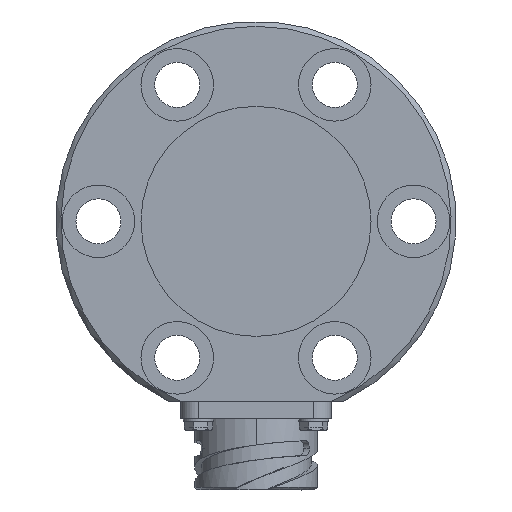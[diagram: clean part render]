
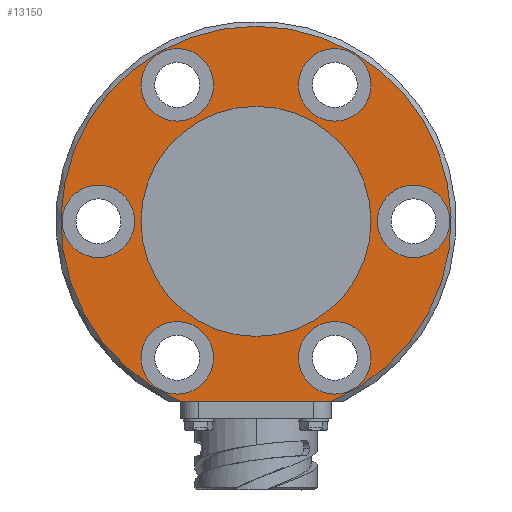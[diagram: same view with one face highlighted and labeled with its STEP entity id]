
A CAD part, left-side view. The second image highlights one B-rep face of the part: STEP entity #13150.
In plain terms, the highlighted planar face has unit normal (-1, 0, 0).
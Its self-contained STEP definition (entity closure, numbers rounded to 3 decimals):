
#8041=CARTESIAN_POINT('',(0.,-31.5,0.));
#8042=DIRECTION('',(1.,0.,0.));
#8043=DIRECTION('',(0.,0.5,0.866));
#8044=AXIS2_PLACEMENT_3D('',#8041,#8042,#8043);
#8049=CARTESIAN_POINT('',(0.,-31.5,0.));
#8050=DIRECTION('',(1.,0.,0.));
#8051=DIRECTION('',(0.,-0.5,-0.866));
#8052=AXIS2_PLACEMENT_3D('',#8049,#8050,#8051);
#8057=CARTESIAN_POINT('',(0.,-15.75,-27.28));
#8058=DIRECTION('',(1.,0.,0.));
#8059=DIRECTION('',(0.,-0.5,0.866));
#8060=AXIS2_PLACEMENT_3D('',#8057,#8058,#8059);
#8065=CARTESIAN_POINT('',(0.,-15.75,-27.28));
#8066=DIRECTION('',(1.,0.,0.));
#8067=DIRECTION('',(0.,0.5,-0.866));
#8068=AXIS2_PLACEMENT_3D('',#8065,#8066,#8067);
#8073=CARTESIAN_POINT('',(0.,15.75,-27.28));
#8074=DIRECTION('',(1.,0.,0.));
#8075=DIRECTION('',(0.,-1.,0.));
#8076=AXIS2_PLACEMENT_3D('',#8073,#8074,#8075);
#8081=CARTESIAN_POINT('',(0.,15.75,-27.28));
#8082=DIRECTION('',(1.,0.,0.));
#8083=DIRECTION('',(0.,1.,0.));
#8084=AXIS2_PLACEMENT_3D('',#8081,#8082,#8083);
#8089=CARTESIAN_POINT('',(0.,31.5,0.));
#8090=DIRECTION('',(1.,0.,0.));
#8091=DIRECTION('',(0.,-0.5,-0.866));
#8092=AXIS2_PLACEMENT_3D('',#8089,#8090,#8091);
#8097=CARTESIAN_POINT('',(0.,31.5,0.));
#8098=DIRECTION('',(1.,0.,0.));
#8099=DIRECTION('',(0.,0.5,0.866));
#8100=AXIS2_PLACEMENT_3D('',#8097,#8098,#8099);
#8105=CARTESIAN_POINT('',(0.,15.75,27.28));
#8106=DIRECTION('',(1.,0.,0.));
#8107=DIRECTION('',(0.,0.5,-0.866));
#8108=AXIS2_PLACEMENT_3D('',#8105,#8106,#8107);
#8113=CARTESIAN_POINT('',(0.,15.75,27.28));
#8114=DIRECTION('',(1.,0.,0.));
#8115=DIRECTION('',(0.,-0.5,0.866));
#8116=AXIS2_PLACEMENT_3D('',#8113,#8114,#8115);
#8121=CARTESIAN_POINT('',(0.,-15.75,27.28));
#8122=DIRECTION('',(1.,0.,0.));
#8123=DIRECTION('',(0.,1.,0.));
#8124=AXIS2_PLACEMENT_3D('',#8121,#8122,#8123);
#8129=CARTESIAN_POINT('',(0.,-15.75,27.28));
#8130=DIRECTION('',(1.,0.,0.));
#8131=DIRECTION('',(0.,-1.,0.));
#8132=AXIS2_PLACEMENT_3D('',#8129,#8130,#8131);
#8137=CARTESIAN_POINT('',(0.,0.,0.));
#8138=DIRECTION('',(1.,0.,0.));
#8139=DIRECTION('',(0.,-1.,0.));
#8140=AXIS2_PLACEMENT_3D('',#8137,#8138,#8139);
#8145=CARTESIAN_POINT('',(0.,0.,0.));
#8146=DIRECTION('',(1.,0.,0.));
#8147=DIRECTION('',(0.,1.,0.));
#8148=AXIS2_PLACEMENT_3D('',#8145,#8146,#8147);
#8153=DIRECTION('',(0.,-1.,0.));
#8154=VECTOR('',#8153,30.);
#8155=CARTESIAN_POINT('',(0.,15.,
-36.));
#8156=LINE('',#8155,#8154);
#8160=CARTESIAN_POINT('',(0.,0.,0.));
#8161=DIRECTION('',(1.,0.,0.));
#8162=DIRECTION('',(0.,0.385,-0.923));
#8163=AXIS2_PLACEMENT_3D('',#8160,#8161,#8162);
#9527=CARTESIAN_POINT('',(0.,15.,
-36.));
#9528=CARTESIAN_POINT('',(0.,-15.,
-36.));
#9529=VERTEX_POINT('',#9527);
#9530=VERTEX_POINT('',#9528);
#9635=CARTESIAN_POINT('',(0.,-23.,27.28));
#9636=CARTESIAN_POINT('',(0.,-8.5,27.28));
#9637=VERTEX_POINT('',#9635);
#9638=VERTEX_POINT('',#9636);
#9639=CARTESIAN_POINT('',(0.,23.,0.));
#9640=CARTESIAN_POINT('',(0.,-23.,0.));
#9641=VERTEX_POINT('',#9639);
#9642=VERTEX_POINT('',#9640);
#9643=CARTESIAN_POINT('',(0.,12.125,33.558));
#9644=CARTESIAN_POINT('',(0.,19.375,21.001));
#9645=VERTEX_POINT('',#9643);
#9646=VERTEX_POINT('',#9644);
#9647=CARTESIAN_POINT('',(0.,35.125,6.279));
#9648=CARTESIAN_POINT('',(0.,27.875,-6.279));
#9649=VERTEX_POINT('',#9647);
#9650=VERTEX_POINT('',#9648);
#9651=CARTESIAN_POINT('',(0.,23.,-27.28));
#9652=CARTESIAN_POINT('',(0.,8.5,-27.28));
#9653=VERTEX_POINT('',#9651);
#9654=VERTEX_POINT('',#9652);
#9655=CARTESIAN_POINT('',(0.,-12.125,-33.558));
#9656=CARTESIAN_POINT('',(0.,-19.375,-21.001));
#9657=VERTEX_POINT('',#9655);
#9658=VERTEX_POINT('',#9656);
#9659=CARTESIAN_POINT('',(0.,-35.125,-6.279));
#9660=CARTESIAN_POINT('',(0.,-27.875,6.279));
#9661=VERTEX_POINT('',#9659);
#9662=VERTEX_POINT('',#9660);
#13098=CARTESIAN_POINT('',(0.,0.,0.));
#13099=DIRECTION('',(-1.,0.,0.));
#13100=DIRECTION('',(0.,0.,-1.));
#13101=AXIS2_PLACEMENT_3D('',#13098,#13099,#13100);
#13102=PLANE('',#13101);
#13103=ORIENTED_EDGE('',*,*,#12972,.F.);
#13105=ORIENTED_EDGE('',*,*,#13104,.T.);
#13106=EDGE_LOOP('',(#13103,#13105));
#13107=FACE_OUTER_BOUND('',#13106,.F.);
#13109=ORIENTED_EDGE('',*,*,#13108,.F.);
#13111=ORIENTED_EDGE('',*,*,#13110,.F.);
#13112=EDGE_LOOP('',(#13109,#13111));
#13113=FACE_BOUND('',#13112,.F.);
#13115=ORIENTED_EDGE('',*,*,#13114,.F.);
#13117=ORIENTED_EDGE('',*,*,#13116,.F.);
#13118=EDGE_LOOP('',(#13115,#13117));
#13119=FACE_BOUND('',#13118,.F.);
#13121=ORIENTED_EDGE('',*,*,#13120,.F.);
#13123=ORIENTED_EDGE('',*,*,#13122,.F.);
#13124=EDGE_LOOP('',(#13121,#13123));
#13125=FACE_BOUND('',#13124,.F.);
#13127=ORIENTED_EDGE('',*,*,#13126,.F.);
#13129=ORIENTED_EDGE('',*,*,#13128,.F.);
#13130=EDGE_LOOP('',(#13127,#13129));
#13131=FACE_BOUND('',#13130,.F.);
#13133=ORIENTED_EDGE('',*,*,#13132,.F.);
#13135=ORIENTED_EDGE('',*,*,#13134,.F.);
#13136=EDGE_LOOP('',(#13133,#13135));
#13137=FACE_BOUND('',#13136,.F.);
#13139=ORIENTED_EDGE('',*,*,#13138,.F.);
#13141=ORIENTED_EDGE('',*,*,#13140,.F.);
#13142=EDGE_LOOP('',(#13139,#13141));
#13143=FACE_BOUND('',#13142,.F.);
#13145=ORIENTED_EDGE('',*,*,#13144,.F.);
#13147=ORIENTED_EDGE('',*,*,#13146,.F.);
#13148=EDGE_LOOP('',(#13145,#13147));
#13149=FACE_BOUND('',#13148,.F.);
#8045=CIRCLE('',#8044,7.25);
#8053=CIRCLE('',#8052,7.25);
#8061=CIRCLE('',#8060,7.25);
#8069=CIRCLE('',#8068,7.25);
#8077=CIRCLE('',#8076,7.25);
#8085=CIRCLE('',#8084,7.25);
#8093=CIRCLE('',#8092,7.25);
#8101=CIRCLE('',#8100,7.25);
#8109=CIRCLE('',#8108,7.25);
#8117=CIRCLE('',#8116,7.25);
#8125=CIRCLE('',#8124,7.25);
#8133=CIRCLE('',#8132,7.25);
#8141=CIRCLE('',#8140,23.);
#8149=CIRCLE('',#8148,23.);
#8164=CIRCLE('',#8163,39.);
#12972=EDGE_CURVE('',#9529,#9530,#8156,.T.);
#13104=EDGE_CURVE('',#9529,#9530,#8164,.T.);
#13108=EDGE_CURVE('',#9658,#9657,#8061,.T.);
#13110=EDGE_CURVE('',#9657,#9658,#8069,.T.);
#13114=EDGE_CURVE('',#9654,#9653,#8077,.T.);
#13116=EDGE_CURVE('',#9653,#9654,#8085,.T.);
#13120=EDGE_CURVE('',#9650,#9649,#8093,.T.);
#13122=EDGE_CURVE('',#9649,#9650,#8101,.T.);
#13126=EDGE_CURVE('',#9646,#9645,#8109,.T.);
#13128=EDGE_CURVE('',#9645,#9646,#8117,.T.);
#13132=EDGE_CURVE('',#9638,#9637,#8125,.T.);
#13134=EDGE_CURVE('',#9637,#9638,#8133,.T.);
#13138=EDGE_CURVE('',#9642,#9641,#8141,.T.);
#13140=EDGE_CURVE('',#9641,#9642,#8149,.T.);
#13144=EDGE_CURVE('',#9662,#9661,#8045,.T.);
#13146=EDGE_CURVE('',#9661,#9662,#8053,.T.);
#13150=ADVANCED_FACE('',(#13107,#13113,#13119,#13125,#13131,#13137,#13143,
#13149),#13102,.T.);
